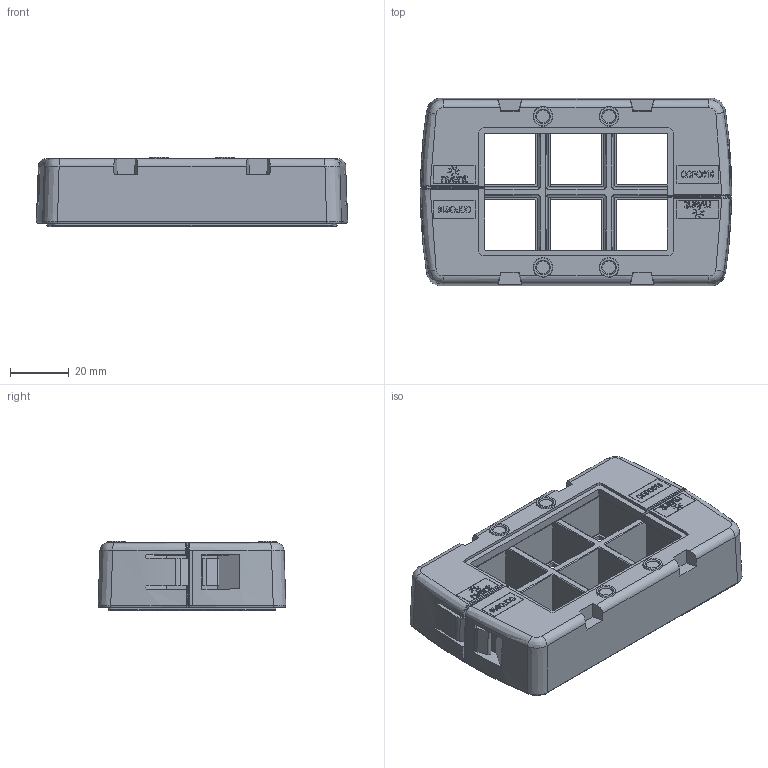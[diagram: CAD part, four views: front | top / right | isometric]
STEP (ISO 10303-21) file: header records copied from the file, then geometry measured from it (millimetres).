
FILE_DESCRIPTION (( 'STEP AP203' ), '1' );
FILE_NAME ('ccfo610.STEP', '2022-12-08T15:17:22', ( '' ), ( '' ), 'SwSTEP 2.0', 'SolidWorks 2020', '' );
FILE_SCHEMA (( 'CONFIG_CONTROL_DESIGN' ));
Length unit declared in the file: millimetre
Products named in the file (5): 89222305; ccfo610; 89222301; 89223514; 89222307
Assembly tree (5 placements, depth 2):
  ccfo610
    89223514
    89222301  x2
    89222305
    89222307
Bounding box: 105.96 x 63.96 x 23.7 mm (x, y, z)
Volume: 80631.8 mm3; surface area: 50925.3 mm2
Topology: 5 solids, 11 shells, 1641 faces, 4388 edges, 2825 vertices
Faces by surface type: plane 815, bspline 557, cylinder 204, cone 65
Entity records: 44259 total; most frequent: CARTESIAN_POINT 18047, ORIENTED_EDGE 6042, DIRECTION 4197, EDGE_CURVE 3021, VERTEX_POINT 1939, VECTOR 1933, LINE 1933, EDGE_LOOP 1172
